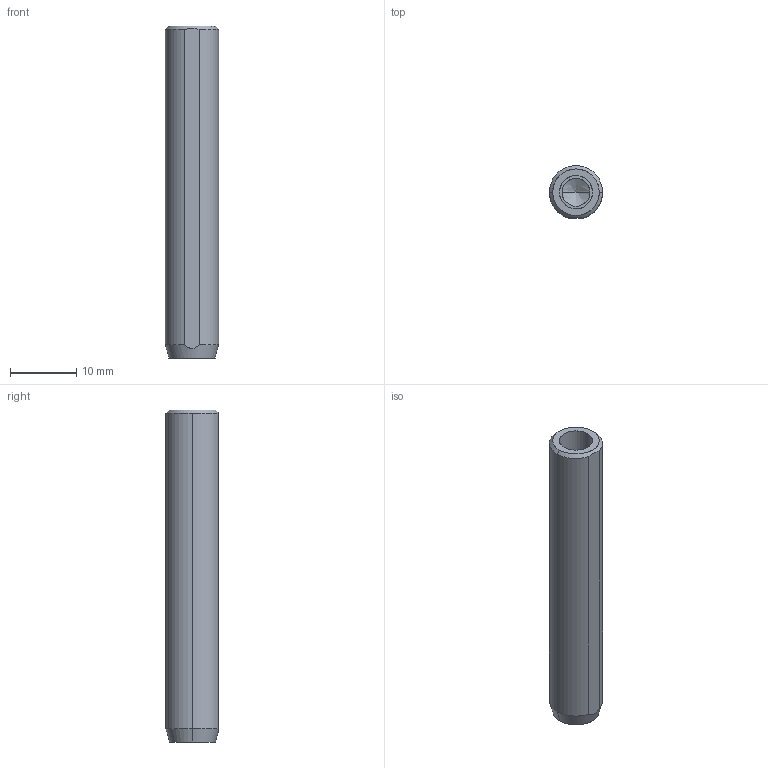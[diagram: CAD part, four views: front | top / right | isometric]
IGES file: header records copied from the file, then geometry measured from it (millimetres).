
Global section: file name: E:\UnigraphicsGraphicData\MISUMI_PRESS-PARTS\IGES\3d_mstm8-50_00432_r00.igs; native system: NX V5.0; preprocessor: UGS NX IGES V5.0; author: MISUMI; date: 20110105.161521; units: millimetre
Bounding box: 8 x 7.85 x 50 mm (x, y, z)
Surface area: 1501.3 mm2 (no closed solid volume)
Topology: 0 solids, 0 shells, 17 faces, 100 edges, 98 vertices
Faces by surface type: bspline 17
